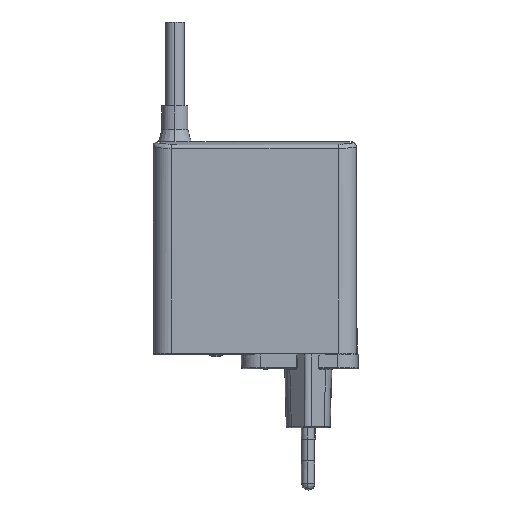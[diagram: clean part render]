
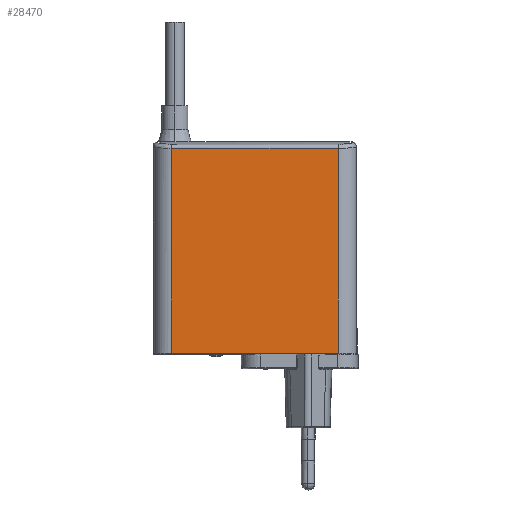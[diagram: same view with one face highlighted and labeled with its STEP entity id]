
A CAD part, top view. The second image highlights one B-rep face of the part: STEP entity #28470.
In plain terms, the highlighted planar face has unit normal (0, 0, 1).
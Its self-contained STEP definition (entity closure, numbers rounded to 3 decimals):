
#11620=CARTESIAN_POINT('',(-24.715,133.183,
21.101));
#11630=VERTEX_POINT('',#11620);
#18000=CARTESIAN_POINT('',(26.285,133.183,
21.101));
#18010=VERTEX_POINT('',#18000);
#18060=CARTESIAN_POINT('',(-36.415,133.183,
21.101));
#18070=DIRECTION('',(1.,0.,0.));
#18080=VECTOR('',#18070,1.);
#18090=LINE('',#18060,#18080);
#18100=EDGE_CURVE('',#11630,#18010,#18090,.T.);
#28170=CARTESIAN_POINT('',(0.785,114.,21.101));
#28180=DIRECTION('',(0.,0.,-1.));
#28190=DIRECTION('',(0.,1.,0.));
#28200=AXIS2_PLACEMENT_3D('',#28170,#28180,#28190);
#28210=PLANE('',#28200);
#28220=CARTESIAN_POINT('',(-24.715,114.,21.101));
#28230=DIRECTION('',(0.,-1.,0.));
#28240=VECTOR('',#28230,1.);
#28250=LINE('',#28220,#28240);
#28260=CARTESIAN_POINT('',(-24.715,70.55,21.101));
#28270=VERTEX_POINT('',#28260);
#28280=EDGE_CURVE('',#11630,#28270,#28250,.T.);
#28290=ORIENTED_EDGE('',*,*,#28280,.T.);
#28300=ORIENTED_EDGE('',*,*,#18100,.F.);
#28310=CARTESIAN_POINT('',(26.285,114.,21.101));
#28320=DIRECTION('',(0.,1.,0.));
#28330=VECTOR('',#28320,1.);
#28340=LINE('',#28310,#28330);
#28350=CARTESIAN_POINT('',(26.285,70.55,21.101));
#28360=VERTEX_POINT('',#28350);
#28370=EDGE_CURVE('',#28360,#18010,#28340,.T.);
#28380=ORIENTED_EDGE('',*,*,#28370,.T.);
#28390=CARTESIAN_POINT('',(0.785,70.55,21.101));
#28400=DIRECTION('',(1.,0.,0.));
#28410=VECTOR('',#28400,1.);
#28420=LINE('',#28390,#28410);
#28430=EDGE_CURVE('',#28270,#28360,#28420,.T.);
#28440=ORIENTED_EDGE('',*,*,#28430,.T.);
#28450=EDGE_LOOP('',(#28440,#28380,#28300,#28290));
#28460=FACE_OUTER_BOUND('',#28450,.T.);
#28470=ADVANCED_FACE('',(#28460),#28210,.F.);
